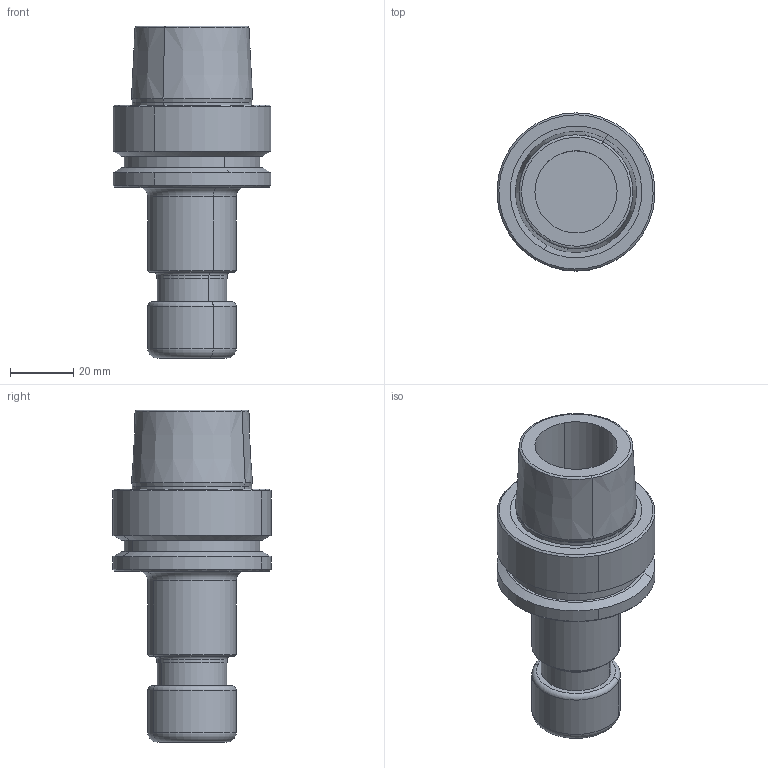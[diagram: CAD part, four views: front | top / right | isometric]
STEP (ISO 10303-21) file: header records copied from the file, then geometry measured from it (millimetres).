
FILE_DESCRIPTION(('CATIA V5 STEP','CAx-IF Rec.Pracs.--- Model Styling and Organization---1.2---2011-12-15'),'2;1');
FILE_NAME('\\nas01\drv1\utils\eitdev\rte\eit\transmagicconvert\db\out\635934616349278610\4504488-D-B-L.stp','2016-03-13T08:27:28+00:00',('none'),('none'),'CATIA Version 5 Release 21 SP 5 (IN-10)','CATIA V5 STEP AP214','none');
FILE_SCHEMA(('AUTOMOTIVE_DESIGN { 1 0 10303 214 1 1 1 1 }'));
Length unit declared in the file: millimetre
Products named in the file (1): HSK E 50 ER16X 80
Bounding box: 49.83 x 50 x 105 mm (x, y, z)
Volume: 82589.7 mm3; surface area: 20491.9 mm2
Topology: 1 solids, 1 shells, 68 faces, 144 edges, 85 vertices
Faces by surface type: cylinder 24, cone 20, torus 14, plane 10
Entity records: 1620 total; most frequent: ORIENTED_EDGE 284, CARTESIAN_POINT 269, DIRECTION 224, EDGE_CURVE 142, AXIS2_PLACEMENT_3D 140, CIRCLE 98, VERTEX_POINT 85, EDGE_LOOP 77
